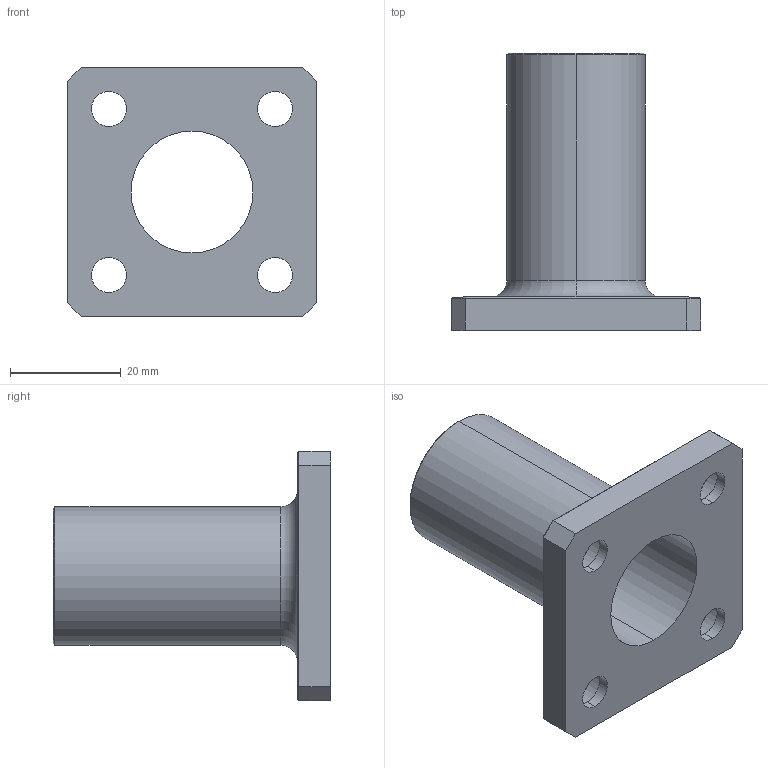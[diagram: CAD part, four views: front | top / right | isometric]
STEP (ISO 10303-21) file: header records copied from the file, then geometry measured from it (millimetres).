
FILE_DESCRIPTION (( 'STEP AP214' ), '1' );
FILE_NAME ('2019_miCube_Excitation connector.STEP', '2019-05-27T07:39:11', ( '' ), ( '' ), 'SwSTEP 2.0', 'SolidWorks 2017', '' );
FILE_SCHEMA (( 'AUTOMOTIVE_DESIGN' ));
Length unit declared in the file: millimetre
Products named in the file (1): 2019_miCube_Excitation connector
Bounding box: 45 x 50 x 45 mm (x, y, z)
Volume: 13046.7 mm3; surface area: 11538.6 mm2
Topology: 1 solids, 1 shells, 49 faces, 112 edges, 70 vertices
Faces by surface type: plane 23, cylinder 20, cone 4, torus 2
Entity records: 1436 total; most frequent: DIRECTION 260, CARTESIAN_POINT 232, ORIENTED_EDGE 224, EDGE_CURVE 112, AXIS2_PLACEMENT_3D 98, VERTEX_POINT 70, VECTOR 64, LINE 64
